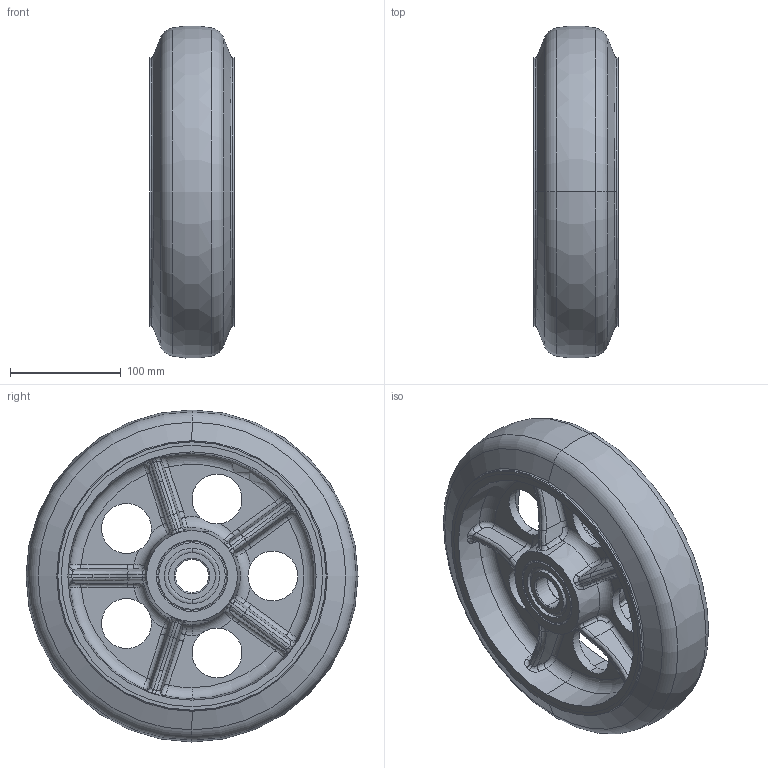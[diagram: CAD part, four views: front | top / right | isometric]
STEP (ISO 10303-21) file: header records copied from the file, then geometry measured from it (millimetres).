
FILE_DESCRIPTION (( 'STEP AP203' ), '1' );
FILE_NAME ('12040412301171.STEP', '2025-12-20T02:53:43', ( '20241006' ), ( '' ), 'SwSTEP 2.0', 'SolidWorks 2021', '' );
FILE_SCHEMA (( 'CONFIG_CONTROL_DESIGN' ));
Length unit declared in the file: millimetre
Products named in the file (1): 12040412301171
Bounding box: 76 x 299.55 x 299.55 mm (x, y, z)
Volume: 2610147.5 mm3; surface area: 264884 mm2
Topology: 1 solids, 3 shells, 432 faces, 1088 edges, 662 vertices
Faces by surface type: bspline 260, cylinder 64, torus 58, plane 26, cone 24
Entity records: 25763 total; most frequent: CARTESIAN_POINT 17181, ORIENTED_EDGE 2176, DIRECTION 1256, EDGE_CURVE 1088, VERTEX_POINT 662, B_SPLINE_CURVE_WITH_KNOTS 574, AXIS2_PLACEMENT_3D 569, EDGE_LOOP 448
